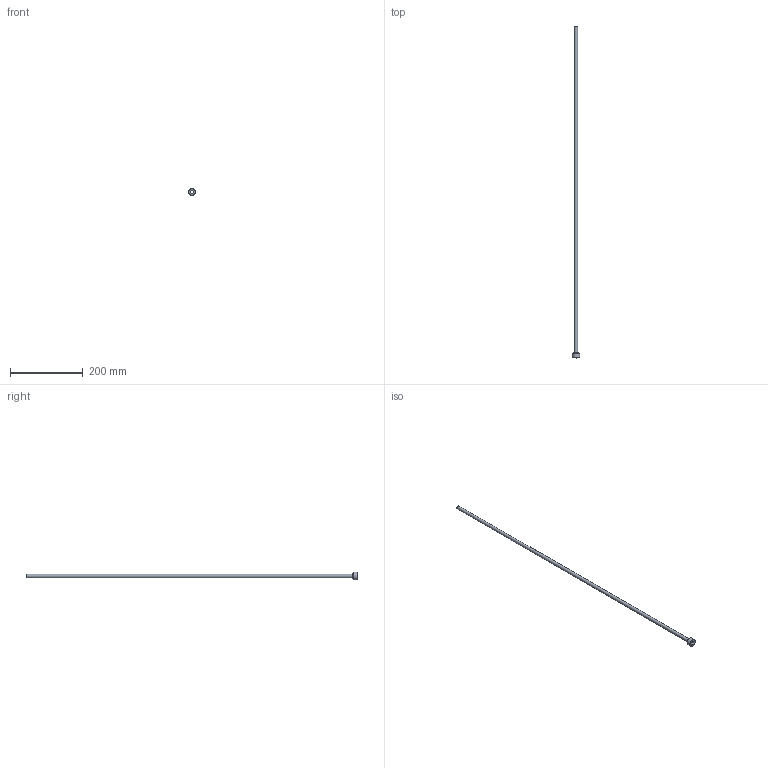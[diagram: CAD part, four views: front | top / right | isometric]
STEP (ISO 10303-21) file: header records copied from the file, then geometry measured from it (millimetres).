
FILE_DESCRIPTION(/* description */ (''),/* implementation_level */ '2;1');
FILE_NAME(/* name */ 'C:/Users/drich/Desktop/PT12-375-36 v1.step',/* time_stamp */ '2019-12-27T14:49:36-06:00',/* author */ (''),/* organization */ (''),/* preprocessor_version */ 'ST-DEVELOPER v18',/* originating_system */ 'Autodesk Translation Framework v8.12.0.6',/* authorisation */ '');
FILE_SCHEMA (('AUTOMOTIVE_DESIGN { 1 0 10303 214 3 1 1 }'));
Length unit declared in the file: inch
Products named in the file (1): PT12-375-36
Bounding box: 20.81 x 914.4 x 20.81 mm (x, y, z)
Volume: 11730.7 mm3; surface area: 52464.8 mm2
Topology: 1 solids, 1 shells, 19 faces, 48 edges, 34 vertices
Faces by surface type: plane 11, cylinder 4, torus 2, cone 2
Full cylindrical faces by diameter (mm): 8.636 x1, 9.271 x1, 13.868 x1, 20.813 x1
Entity records: 633 total; most frequent: DIRECTION 112, CARTESIAN_POINT 102, ORIENTED_EDGE 96, EDGE_CURVE 48, AXIS2_PLACEMENT_3D 44, VERTEX_POINT 34, CIRCLE 24, EDGE_LOOP 24
